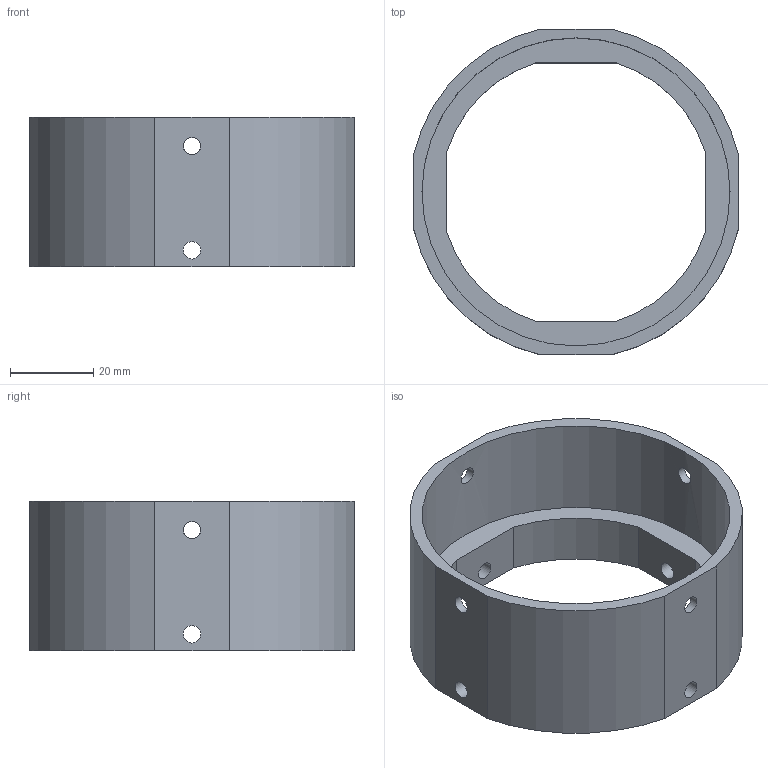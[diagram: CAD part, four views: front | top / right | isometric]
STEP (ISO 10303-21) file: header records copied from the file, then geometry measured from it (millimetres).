
FILE_DESCRIPTION(/* description */ ('STEP AP242','CAx-IF Rec.Pracs.---Representation and Presentation of Product Manufacturing Information (PMI)---4.0---2014-10-13','CAx-IF Rec.Pracs.---3D Tessellated Geometry---0.4---2014-09-14','2;1'),/* implementation_level */ '2;1');
FILE_NAME(/* name */ '27b - Harmonic skirt bearing housing - Harmonic skirt bearing housing',/* time_stamp */ '2024-12-03T19:58:33Z',/* author */ (''),/* organization */ (''),/* preprocessor_version */ 'ST-DEVELOPER v20',/* originating_system */ 'ONSHAPE BY PTC INC, 1.190',/* authorisation */ ' ');
FILE_SCHEMA (('AP242_MANAGED_MODEL_BASED_3D_ENGINEERING_MIM_LF { 1 0 10303 442 1 1 4 }'));
Length unit declared in the file: metre
Products named in the file (1): Harmonic skirt bearing housing
Bounding box: 78 x 78 x 36 mm (x, y, z)
Volume: 36590.5 mm3; surface area: 20827.5 mm2
Topology: 1 solids, 1 shells, 28 faces, 80 edges, 54 vertices
Faces by surface type: cylinder 17, plane 11
Full cylindrical faces by diameter (mm): 4.2 x8, 74 x1
Entity records: 934 total; most frequent: CARTESIAN_POINT 185, DIRECTION 150, ORIENTED_EDGE 132, EDGE_CURVE 66, AXIS2_PLACEMENT_3D 59, EDGE_LOOP 56, FACE_BOUND 56, VERTEX_POINT 50
